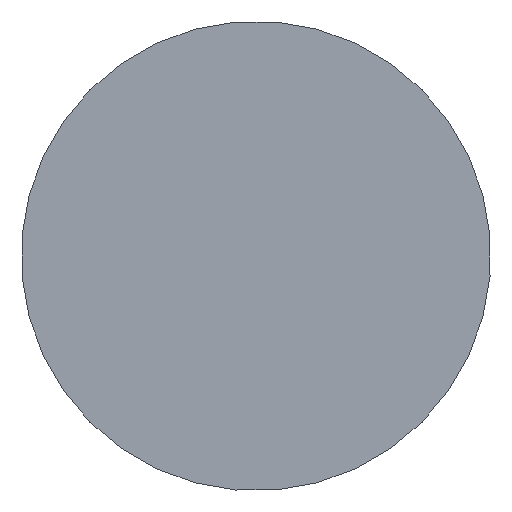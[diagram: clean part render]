
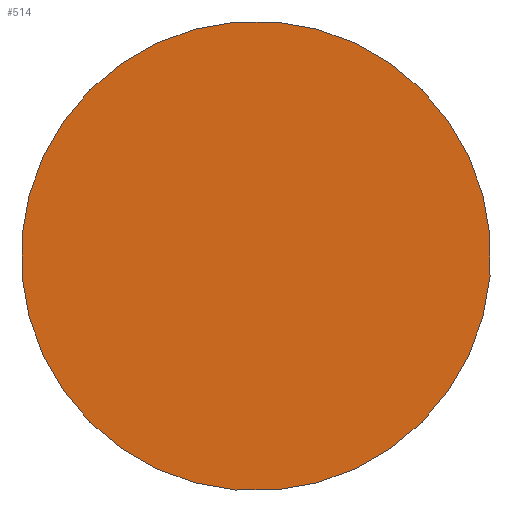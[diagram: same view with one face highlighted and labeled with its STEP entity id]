
A CAD part, front view. The second image highlights one B-rep face of the part: STEP entity #514.
In plain terms, the highlighted planar face has unit normal (0, -1, 0).
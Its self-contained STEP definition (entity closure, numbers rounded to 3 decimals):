
#379 = VERTEX_POINT ( 'NONE', #1943 ) ;
#437 = FACE_OUTER_BOUND ( 'NONE', #3528, .T. ) ;
#514 = ADVANCED_FACE ( 'NONE', ( #437 ), #6623, .T. ) ;
#1943 = CARTESIAN_POINT ( 'NONE',  ( 0., 0., 250. ) ) ;
#2769 = ORIENTED_EDGE ( 'NONE', *, *, #10707, .T. ) ;
#3528 = EDGE_LOOP ( 'NONE', ( #7382, #2769 ) ) ;
#3628 = DIRECTION ( 'NONE',  ( 0., -1., 0. ) ) ;
#3776 = CARTESIAN_POINT ( 'NONE',  ( 0., 0., 0. ) ) ;
#4191 = CIRCLE ( 'NONE', #9940, 250. ) ;
#6477 = EDGE_CURVE ( 'NONE', #10701, #379, #4191, .T. ) ;
#6623 = PLANE ( 'NONE',  #10734 ) ;
#7154 = CIRCLE ( 'NONE', #9231, 250. ) ;
#7382 = ORIENTED_EDGE ( 'NONE', *, *, #6477, .T. ) ;
#7438 = DIRECTION ( 'NONE',  ( 0., -1., 0. ) ) ;
#8763 = CARTESIAN_POINT ( 'NONE',  ( 0., 0., 0. ) ) ;
#9138 = CARTESIAN_POINT ( 'NONE',  ( 0., 0., 0. ) ) ;
#9231 = AXIS2_PLACEMENT_3D ( 'NONE', #8763, #10390, #10331 ) ;
#9940 = AXIS2_PLACEMENT_3D ( 'NONE', #9138, #3628, #10932 ) ;
#10331 = DIRECTION ( 'NONE',  ( 0., 0., -1. ) ) ;
#10390 = DIRECTION ( 'NONE',  ( 0., -1., 0. ) ) ;
#10701 = VERTEX_POINT ( 'NONE', #11186 ) ;
#10707 = EDGE_CURVE ( 'NONE', #379, #10701, #7154, .T. ) ;
#10734 = AXIS2_PLACEMENT_3D ( 'NONE', #3776, #7438, #10804 ) ;
#10804 = DIRECTION ( 'NONE',  ( 0., 0., -1. ) ) ;
#10932 = DIRECTION ( 'NONE',  ( 0., 0., -1. ) ) ;
#11186 = CARTESIAN_POINT ( 'NONE',  ( 0., 0., -250. ) ) ;
